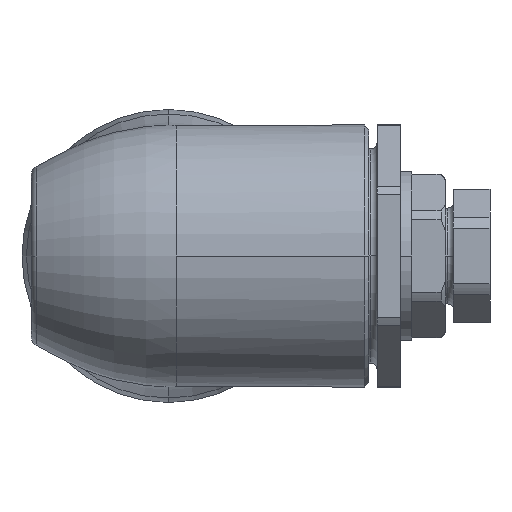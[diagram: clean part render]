
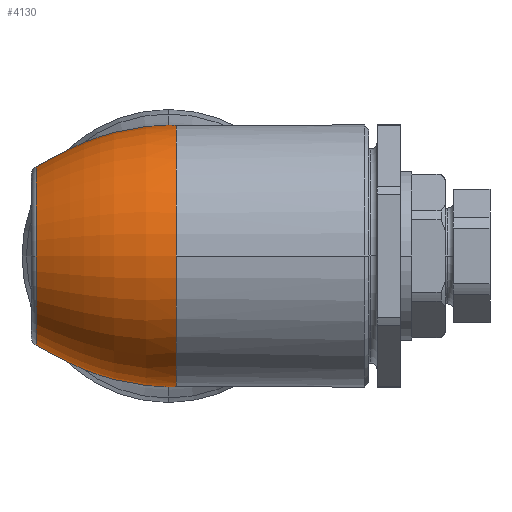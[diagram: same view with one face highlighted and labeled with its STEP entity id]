
A CAD part, left-side view. The second image highlights one B-rep face of the part: STEP entity #4130.
In plain terms, the highlighted face is a revolution surface.
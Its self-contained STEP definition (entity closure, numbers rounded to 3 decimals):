
#1043=CARTESIAN_POINT('',(-36.264,-0.5,
-8.468));
#1066=CARTESIAN_POINT('',(-31.985,8.591,
-2.899));
#1067=CARTESIAN_POINT('',(-32.116,8.376,
-3.365));
#1068=CARTESIAN_POINT('',(-32.423,7.897,
-4.201));
#1069=CARTESIAN_POINT('',(-32.894,7.139,
-5.173));
#1070=CARTESIAN_POINT('',(-33.359,6.382,
-5.95));
#1071=CARTESIAN_POINT('',(-33.802,5.645,
-6.567));
#1072=CARTESIAN_POINT('',(-34.22,4.937,
-7.054));
#1073=CARTESIAN_POINT('',(-34.612,4.268,
-7.436));
#1074=CARTESIAN_POINT('',(-34.978,3.64,
-7.732));
#1075=CARTESIAN_POINT('',(-35.318,3.055,
-7.959));
#1076=CARTESIAN_POINT('',(-35.632,2.511,
-8.13));
#1077=CARTESIAN_POINT('',(-35.92,2.007,
-8.257));
#1078=CARTESIAN_POINT('',(-36.179,1.537,
-8.348));
#1079=CARTESIAN_POINT('',(-36.401,1.097,
-8.412));
#1080=CARTESIAN_POINT('',(-36.561,0.669,
-8.454));
#1081=CARTESIAN_POINT('',(-36.579,0.271,
-8.475));
#1082=CARTESIAN_POINT('',(-36.464,-0.099,
-8.481));
#1083=CARTESIAN_POINT('',(-36.335,-0.363,
-8.474));
#1084=CARTESIAN_POINT('',(-36.264,-0.5,
-8.468));
#1104=CARTESIAN_POINT('',(-36.264,-0.5,
8.468));
#1106=CARTESIAN_POINT('',(-36.264,-0.5,
8.468));
#1107=CARTESIAN_POINT('',(-36.341,-0.352,
8.475));
#1108=CARTESIAN_POINT('',(-36.482,-0.067,
8.481));
#1109=CARTESIAN_POINT('',(-36.589,0.345,
8.473));
#1110=CARTESIAN_POINT('',(-36.543,0.729,
8.449));
#1111=CARTESIAN_POINT('',(-36.378,1.144,8.406));
#1112=CARTESIAN_POINT('',(-36.159,1.575,8.342));
#1113=CARTESIAN_POINT('',(-35.903,2.036,8.25));
#1114=CARTESIAN_POINT('',(-35.62,2.533,8.124));
#1115=CARTESIAN_POINT('',(-35.309,3.069,7.954));
#1116=CARTESIAN_POINT('',(-34.973,3.648,7.729));
#1117=CARTESIAN_POINT('',(-34.61,4.271,7.435));
#1118=CARTESIAN_POINT('',(-34.221,4.936,7.055));
#1119=CARTESIAN_POINT('',(-33.804,5.641,6.569));
#1120=CARTESIAN_POINT('',(-33.361,6.378,5.954));
#1121=CARTESIAN_POINT('',(-32.896,7.136,5.177));
#1122=CARTESIAN_POINT('',(-32.425,7.895,4.205));
#1123=CARTESIAN_POINT('',(-32.116,8.375,3.366));
#1124=CARTESIAN_POINT('',(-31.985,8.591,2.899));
#1131=CARTESIAN_POINT('',(-37.,8.591,0.));
#1132=DIRECTION('',(0.,1.,0.));
#1133=DIRECTION('',(0.866,0.,-0.5));
#1134=AXIS2_PLACEMENT_3D('',#1131,#1132,#1133);
#1136=CARTESIAN_POINT('',(-37.,8.591,0.));
#1137=DIRECTION('',(0.,1.,0.));
#1138=DIRECTION('',(-1.,0.,0.));
#1139=AXIS2_PLACEMENT_3D('',#1136,#1137,#1138);
#1141=CARTESIAN_POINT('',(-37.,-0.5,0.));
#1142=DIRECTION('',(0.,-1.,0.));
#1143=DIRECTION('',(0.087,0.,0.996));
#1144=AXIS2_PLACEMENT_3D('',#1141,#1142,#1143);
#1146=CARTESIAN_POINT('',(-37.,-0.5,0.));
#1147=DIRECTION('',(0.,-1.,0.));
#1148=DIRECTION('',(-1.,0.,0.));
#1149=AXIS2_PLACEMENT_3D('',#1146,#1147,#1148);
#1159=CARTESIAN_POINT('',(-31.985,8.591,2.899));
#2434=VERTEX_POINT('',#1104);
#2436=VERTEX_POINT('',#1043);
#2437=VERTEX_POINT('',#1066);
#2439=VERTEX_POINT('',#1159);
#2440=CARTESIAN_POINT('',(-42.793,8.591,
0.));
#2441=VERTEX_POINT('',#2440);
#2442=CARTESIAN_POINT('',(-45.5,-0.5,0.));
#2443=VERTEX_POINT('',#2442);
#4109=CARTESIAN_POINT('',(-42.793,8.591,0.));
#4110=CARTESIAN_POINT('',(-44.177,6.1,0.));
#4111=CARTESIAN_POINT('',(-45.5,3.661,0.));
#4112=CARTESIAN_POINT('',(-45.5,-0.5,0.));
#4114=CARTESIAN_POINT('',(-37.,8.664,0.));
#4115=DIRECTION('',(0.,-1.,0.));
#4116=AXIS1_PLACEMENT('',#4114,#4115);
#4117=SURFACE_OF_REVOLUTION('',#4113,#4116);
#4119=ORIENTED_EDGE('',*,*,#4118,.T.);
#4121=ORIENTED_EDGE('',*,*,#4120,.T.);
#4122=ORIENTED_EDGE('',*,*,#4103,.F.);
#4124=ORIENTED_EDGE('',*,*,#4123,.T.);
#4126=ORIENTED_EDGE('',*,*,#4125,.T.);
#4127=ORIENTED_EDGE('',*,*,#3886,.F.);
#4128=EDGE_LOOP('',(#4119,#4121,#4122,#4124,#4126,#4127));
#4129=FACE_OUTER_BOUND('',#4128,.F.);
#4130=ADVANCED_FACE('',(#4129),#4117,.T.);
#1085=B_SPLINE_CURVE_WITH_KNOTS('',3,(#1066,#1067,#1068,#1069,#1070,#1071,#1072,
#1073,#1074,#1075,#1076,#1077,#1078,#1079,#1080,#1081,#1082,#1083,#1084),
.UNSPECIFIED.,.F.,.F.,(4,1,1,1,1,1,1,1,1,1,1,1,1,1,1,1,4),(0.,0.063,0.125,
0.188,0.25,0.313,0.375,0.438,0.5,0.563,0.625,0.688,
0.75,0.813,0.875,0.938,1.),.UNSPECIFIED.);
#1125=B_SPLINE_CURVE_WITH_KNOTS('',3,(#1106,#1107,#1108,#1109,#1110,#1111,#1112,
#1113,#1114,#1115,#1116,#1117,#1118,#1119,#1120,#1121,#1122,#1123,#1124),
.UNSPECIFIED.,.F.,.F.,(4,1,1,1,1,1,1,1,1,1,1,1,1,1,1,1,4),(0.,0.063,0.125,
0.188,0.25,0.313,0.375,0.438,0.5,0.563,0.625,0.688,
0.75,0.813,0.875,0.938,1.),.UNSPECIFIED.);
#1135=CIRCLE('',#1134,5.793);
#1140=CIRCLE('',#1139,5.793);
#1145=CIRCLE('',#1144,8.5);
#1150=CIRCLE('',#1149,8.5);
#3886=EDGE_CURVE('',#2437,#2436,#1085,.T.);
#4103=EDGE_CURVE('',#2434,#2439,#1125,.T.);
#4113=B_SPLINE_CURVE_WITH_KNOTS('',3,(#4109,#4110,#4111,#4112),.UNSPECIFIED.,
.F.,.F.,(4,4),(0.,1.),.UNSPECIFIED.);
#4118=EDGE_CURVE('',#2437,#2441,#1135,.T.);
#4120=EDGE_CURVE('',#2441,#2439,#1140,.T.);
#4123=EDGE_CURVE('',#2434,#2443,#1145,.T.);
#4125=EDGE_CURVE('',#2443,#2436,#1150,.T.);
